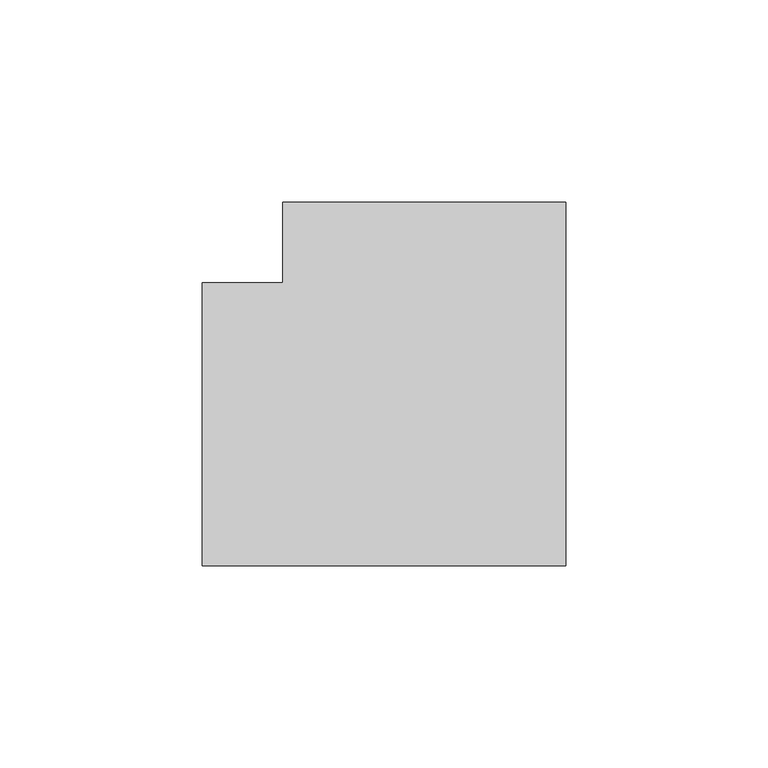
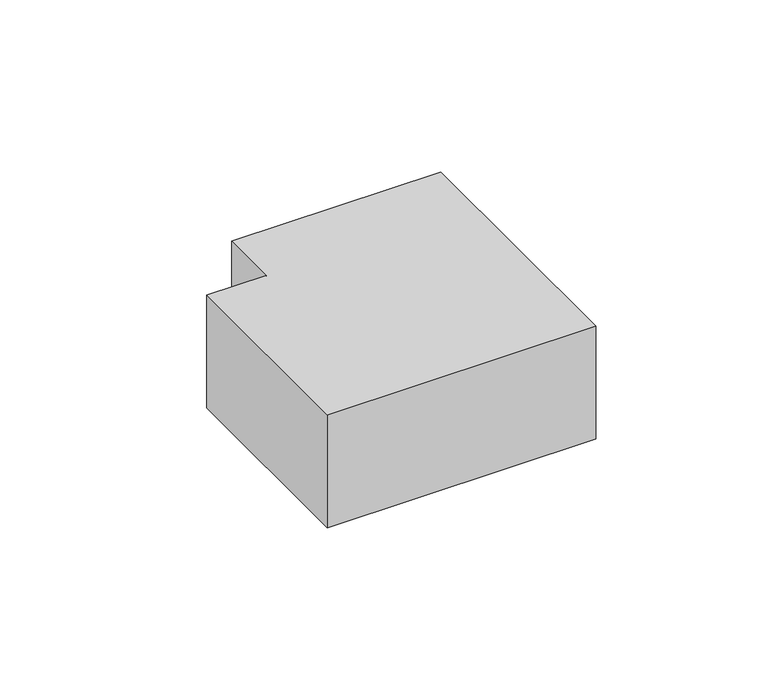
"""IFC4 building model written with IfcOpenShell, lengths in millimetres: duct fitting geometry, КНС_Угол_DKC : Угол внешний."""

import ifcopenshell
import ifcopenshell.guid

model = None  # the IFC model being written
_history = None  # IfcOwnerHistory: only IFC2X3 demands one
_inside = {}  # id of a spatial element -> (the spatial element, [elements in it])
_under = {}  # id of a project, library or spatial element -> (it, [spatial elements below it])
_declared = {}  # id of a project -> (the project, [libraries it declares])
_typed = {}  # id of a type object -> (the type object, [elements of that type])
_made_of = {}  # id of a material, layer set ... -> (it, [elements and type objects made of it])


def new_model(schema):
    """Start an empty IFC model of exactly this schema.

    Asked for "IFC4X3", IfcOpenShell would pick the latest addendum, in which some entities
    have other attributes; the version numbers below select the first issue.
    IFC2X3 requires an IfcOwnerHistory on every rooted entity: one is made here for all.
    """
    global model, _history
    if schema == "IFC4X3":
        model = ifcopenshell.file(schema_version=(4, 3, 0, 0))
    else:
        model = ifcopenshell.file(schema=schema)
    _inside.clear()
    _under.clear()
    _declared.clear()
    _typed.clear()
    _made_of.clear()
    _history = None
    if model.schema == "IFC2X3":
        org = make("IfcOrganization", Name="unknown")
        user = make(
            "IfcPersonAndOrganization",
            ThePerson=make("IfcPerson", FamilyName="unknown"),
            TheOrganization=org,
        )
        app = make(
            "IfcApplication",
            ApplicationDeveloper=org,
            Version="unknown",
            ApplicationFullName="unknown",
            ApplicationIdentifier="unknown",
        )
        _history = make(
            "IfcOwnerHistory",
            OwningUser=user,
            OwningApplication=app,
            ChangeAction="ADDED",
            CreationDate=0,
        )
    return model


def make(cls, **values):
    """One entity of the class cls with the attributes given. An attribute that is None is left unset."""
    return model.create_entity(
        cls, **{name: value for name, value in values.items() if value is not None}
    )


def rooted(cls, **values):
    """An entity with a GlobalId (a new one), such as an element, a storey or a relation."""
    return make(cls, GlobalId=ifcopenshell.guid.new(), OwnerHistory=_history, **values)


def si_unit(unit_type, name, prefix=None):
    """IfcSIUnit, for example si_unit("LENGTHUNIT", "METRE", prefix="MILLI")."""
    return make("IfcSIUnit", UnitType=unit_type, Prefix=prefix, Name=name)


def assignment(units):
    """IfcUnitAssignment: the units of a project."""
    return None if units is None else make("IfcUnitAssignment", Units=units)


def point(xyz):
    """IfcCartesianPoint."""
    return None if xyz is None else make("IfcCartesianPoint", Coordinates=xyz)


def direction(xyz):
    """IfcDirection."""
    return None if xyz is None else make("IfcDirection", DirectionRatios=xyz)


def frame(location, z_axis=None, x_axis=None):
    """IfcAxis2Placement3D, a coordinate frame: its origin and axes. An axis left out is left unset."""
    return make(
        "IfcAxis2Placement3D",
        Location=point(location),
        Axis=direction(z_axis),
        RefDirection=direction(x_axis),
    )


def origin():
    """The frame at (0, 0, 0) with its axes left unset."""
    return frame((0.0, 0.0, 0.0))


def place(relative_to, where):
    """IfcLocalPlacement: puts the frame where relative to a parent placement (None: the world)."""
    return make(
        "IfcLocalPlacement", PlacementRelTo=relative_to, RelativePlacement=where
    )


def context(
    kind, dimensions, precision=None, world=None, true_north=None, identifier=None
):
    """IfcGeometricRepresentationContext, for example the 3D "Model" context."""
    return make(
        "IfcGeometricRepresentationContext",
        ContextIdentifier=identifier,
        ContextType=kind,
        CoordinateSpaceDimension=dimensions,
        Precision=precision,
        WorldCoordinateSystem=world,
        TrueNorth=true_north,
    )


def project(units=None, contexts=None):
    """IfcProject with its units and contexts."""
    return rooted(
        "IfcProject",
        Name="project",
        RepresentationContexts=contexts,
        UnitsInContext=assignment(units),
    )


def spatial(cls, under=None, at=None, **own):
    """A site, building, storey or space (cls), placed at a placement, below another one or the project."""
    s = rooted(cls, ObjectPlacement=at, **own)
    if under is not None:
        _under.setdefault(under.id(), (under, []))[1].append(s)
    return s


def polyline(points):
    """IfcPolyline through the points."""
    return make("IfcPolyline", Points=[point(p) for p in points])


def outline(outer, holes=None, kind="AREA"):
    """IfcArbitraryClosedProfileDef: a profile drawn as a closed curve; with holes, ...WithVoids."""
    if holes is None:
        return make("IfcArbitraryClosedProfileDef", ProfileType=kind, OuterCurve=outer)
    return make(
        "IfcArbitraryProfileDefWithVoids",
        ProfileType=kind,
        OuterCurve=outer,
        InnerCurves=holes,
    )


def extrude(swept, where, along, depth):
    """IfcExtrudedAreaSolid: the profile swept, set in the frame where, extruded along a direction by depth."""
    return make(
        "IfcExtrudedAreaSolid",
        SweptArea=swept,
        Position=where,
        ExtrudedDirection=direction(along),
        Depth=depth,
    )


def shape(context_of_items, identifier, shape_type, items):
    """IfcShapeRepresentation: the items that make up one representation, for example the "Body"."""
    return make(
        "IfcShapeRepresentation",
        ContextOfItems=context_of_items,
        RepresentationIdentifier=identifier,
        RepresentationType=shape_type,
        Items=items,
    )


def source(mapping_origin, context_of_items, identifier, shape_type, items):
    """IfcRepresentationMap: a shape defined once, which mapped items show again and again."""
    return make(
        "IfcRepresentationMap",
        MappingOrigin=mapping_origin,
        MappedRepresentation=shape(context_of_items, identifier, shape_type, items),
    )


def transform(
    local_origin,
    x_axis=None,
    y_axis=None,
    z_axis=None,
    scale=None,
    scale2=None,
    scale3=None,
    uniform=True,
):
    """IfcCartesianTransformationOperator3D, or its non-uniform kind. x_axis, y_axis, z_axis: its Axis1, 2, 3."""
    if uniform:
        return make(
            "IfcCartesianTransformationOperator3D",
            Axis1=direction(x_axis),
            Axis2=direction(y_axis),
            LocalOrigin=point(local_origin),
            Scale=scale,
            Axis3=direction(z_axis),
        )
    return make(
        "IfcCartesianTransformationOperator3DnonUniform",
        Axis1=direction(x_axis),
        Axis2=direction(y_axis),
        LocalOrigin=point(local_origin),
        Scale=scale,
        Axis3=direction(z_axis),
        Scale2=scale2,
        Scale3=scale3,
    )


def mapped(mapping_source, mapping_target):
    """IfcMappedItem: shows the shape of a source again, moved by a transform."""
    return make(
        "IfcMappedItem", MappingSource=mapping_source, MappingTarget=mapping_target
    )


def made_of(thing, what):
    """Note that an element or type object is made of a material, layer set ...; save() writes the relation."""
    if what is not None:
        _made_of.setdefault(what.id(), (what, []))[1].append(thing)
    return thing


def element(
    cls,
    number,
    at=None,
    inside=None,
    cuts=None,
    type_object=None,
    material=None,
    context=None,
    identifier="Body",
    shape_type=None,
    held_by="IfcProductDefinitionShape",
    body=None,
    shapes=None,
    **own,
):
    """One element of the class cls, such as IfcWall. Its Tag is "e" and its number.

    at: its placement. inside: the storey or other place that contains it. cuts: it is an
    opening in that element (IfcRelVoidsElement). A single representation is given by context,
    identifier, shape_type and body (its items); several are given by shapes. held_by: the class
    of the entity that holds the representations. save() writes the other relations.
    """
    e = rooted(cls, Tag="e%d" % number, ObjectPlacement=at, **own)
    if body is not None:
        shapes = [shape(context, identifier, shape_type, body)]
    if shapes is not None:
        e.Representation = make(held_by, Representations=shapes)
    if inside is not None:
        _inside.setdefault(inside.id(), (inside, []))[1].append(e)
    if cuts is not None:
        rooted(
            "IfcRelVoidsElement", RelatingBuildingElement=cuts, RelatedOpeningElement=e
        )
    if type_object is not None:
        _typed.setdefault(type_object.id(), (type_object, []))[1].append(e)
    return made_of(e, material)


def aggregate(whole, parts):
    """IfcRelAggregates: a whole, such as a stair, and the parts it consists of."""
    return rooted("IfcRelAggregates", RelatingObject=whole, RelatedObjects=parts)


def save(model, path):
    """Write the relations noted so far, then the file.

    IfcRelAggregates (storeys below a building ...), IfcRelContainedInSpatialStructure (elements
    in a storey), IfcRelDefinesByType, IfcRelAssociatesMaterial and IfcRelDeclares: one each for
    every whole, place, type object, material and project.
    """
    for whole, parts in _under.values():
        aggregate(whole, parts)
    for where, things in _inside.values():
        rooted(
            "IfcRelContainedInSpatialStructure",
            RelatedElements=things,
            RelatingStructure=where,
        )
    for kind, things in _typed.values():
        rooted("IfcRelDefinesByType", RelatedObjects=things, RelatingType=kind)
    for what, things in _made_of.values():
        rooted("IfcRelAssociatesMaterial", RelatedObjects=things, RelatingMaterial=what)
    for by, libraries in _declared.values():
        rooted("IfcRelDeclares", RelatingContext=by, RelatedDefinitions=libraries)
    model.write(path)


def duct_fitting_86009746(model_context):
    return source(origin(), model_context, "Body", "SweptSolid", [
        extrude(outline(polyline([(-35.0, 55.0), (35.0, 55.0), (35.0, -35.0), (-55.0, -35.0), (-55.0, 35.0), (-35.0, 35.0), (-35.0, 55.0)])), frame((0.0, 0.0, -20.0), z_axis=(0.0, 0.0, 1.0), x_axis=(1.0, 0.0, 0.0)), (0.0, 0.0, 1.0), 40.0),
    ])


if __name__ == "__main__":
    model = new_model("IFC4")
    model_context = context("Model", 3, world=origin())
    ifc_project = project(units=[si_unit("LENGTHUNIT", "METRE", prefix="MILLI")], contexts=[model_context])
    site = spatial("IfcSite", under=ifc_project)
    building = spatial("IfcBuilding", under=site)
    placement = place(None, origin())
    duct_fitting_shape = duct_fitting_86009746(model_context)
    element("IfcDuctFitting", 1, ObjectType="КНС_Угол_DKC : Угол внешний", at=placement, inside=building, context=model_context, shape_type="MappedRepresentation", body=[
        mapped(duct_fitting_shape, transform((0.0, 0.0, 0.0), x_axis=(1.0, 0.0, 0.0), y_axis=(0.0, 1.0, 0.0), z_axis=(0.0, 0.0, 1.0))),
    ])
    save(model, "model.ifc")
